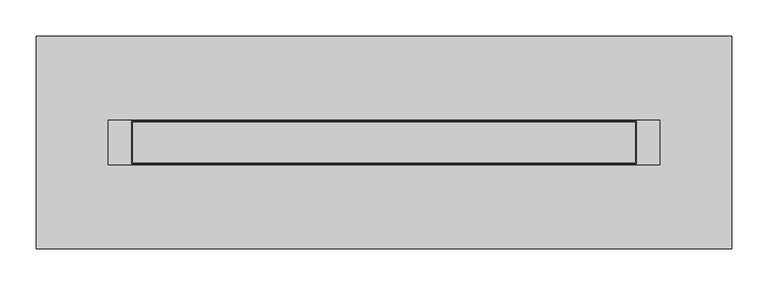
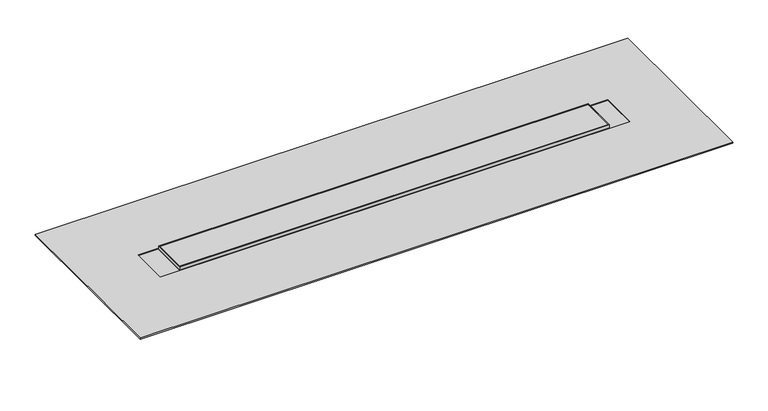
"""IFC4 building model written with IfcOpenShell, lengths in millimetres: sanitary terminal geometry, NLRS_PF_52_UN_Compact Modulo Stone_Easydrain : Compact Modulo Stone."""

from ifc_helpers import new_model, si_unit, frame, origin, place, context, project, spatial, polyline, circle_curve, ellipse_curve, outline, extrude, source, transform, mapped, element, save
from ifc_brep_helpers import plane_surface, cylinder_surface, advanced_brep


def sanitary_terminal_7838ee8a(model_context):
    return source(origin(), model_context, "Body", "SolidModel", [
        extrude(outline(polyline([(500.0, 29.5), (500.0, -29.5), (-200.0, -29.5), (-200.0, 29.5), (500.0, 29.5)])), frame((0.0, 0.0, -9.0), z_axis=(0.0, 0.0, 1.0), x_axis=(1.0, 0.0, 0.0)), (0.0, 0.0, 1.0), 3.0),
        extrude(outline(polyline([(498.5, 28.0), (498.5, -28.0), (-198.5, -28.0), (-198.5, 28.0), (498.5, 28.0)])), frame((0.0, 0.0, -6.0), z_axis=(0.0, 0.0, 1.0), x_axis=(1.0, 0.0, 0.0)), (0.0, 0.0, 1.0), 6.0),
        extrude(outline(polyline([(500.0, 29.5), (500.0, -29.5), (-200.0, -29.5), (-200.0, 29.5), (500.0, 29.5)]), holes=[polyline([(498.5, 28.0), (-198.5, 28.0), (-198.5, -28.0), (498.5, -28.0), (498.5, 28.0)])]), frame((0.0, 0.0, -6.0), z_axis=(0.0, 0.0, 1.0), x_axis=(1.0, 0.0, 0.0)), (0.0, 0.0, 1.0), 6.0),
        extrude(outline(polyline([(632.5, 147.5), (632.5, -147.5), (-332.5, -147.5), (-332.5, 147.5), (632.5, 147.5)]), holes=[polyline([(532.5, 31.0), (-232.5, 31.0), (-232.5, -31.0), (532.5, -31.0), (532.5, 31.0)])]), frame((0.0, 0.0, -7.0), z_axis=(0.0, 0.0, 1.0), x_axis=(1.0, 0.0, 0.0)), (0.0, 0.0, 1.0), 2.0),
        advanced_brep(
        [(-232.5, -31.0, -24.0), (40.0, -31.0, -26.0), (40.0, -31.0, -69.0), (260.0, -31.0, -69.0), (260.0, -31.0, -26.0), (532.5, -31.0, -24.0), (532.5, -31.0, -8.0), (-232.5, -31.0, -8.0), (150.0, -31.0, -24.0), (150.0, -31.0, -64.0), (532.5, 31.0, -24.0), (260.0, 31.0, -26.0), (260.0, 31.0, -69.0), (40.0, 31.0, -69.0), (40.0, 31.0, -26.0), (-232.5, 31.0, -24.0), (-232.5, 31.0, -8.0), (532.5, 31.0, -8.0), (-212.5, 0.0, -24.146789), (-172.5, 0.0, -24.440367), (532.5, 30.0, -8.0), (532.5, -30.0, -8.0), (550.0, 47.5, -6.0), (-250.0, 47.5, -6.0), (-250.0, -64.5, -6.0), (550.0, -64.5, -6.0), (-232.5, -30.0, -8.0), (-232.5, 30.0, -8.0), (472.5, 0.0, -24.440367), (512.5, 0.0, -24.146789), (150.0, -50.0, -24.0), (150.0, -50.0, -64.0), (550.0, 47.5, -8.0), (550.0, -64.5, -8.0), (-250.0, -64.5, -8.0), (-250.0, 47.5, -8.0), (-212.5, 0.0, -69.0), (-172.5, 0.0, -69.0), (472.5, 0.0, -69.0), (512.5, 0.0, -69.0)],
        [
            (0, 1),
            (1, 2),
            (2, 3),
            (3, 4),
            (4, 5),
            (5, 6),
            (6, 7),
            (7, 0),
            (8, 9, circle_curve(frame((150.0, -31.0, -44.0), z_axis=(0.0, 1.0, 0.0), x_axis=(0.0, 0.0, -1.0)), 20.0)),
            (9, 8, circle_curve(frame((150.0, -31.0, -44.0), z_axis=(0.0, 1.0, 0.0), x_axis=(0.0, 0.0, -1.0)), 20.0)),
            (10, 11),
            (11, 12),
            (12, 13),
            (13, 14),
            (14, 15),
            (15, 16),
            (16, 17),
            (17, 10),
            (0, 15),
            (14, 1),
            (18, 19, ellipse_curve(frame((-192.5, 0.0, -24.293578), z_axis=(0.007339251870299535, 0.0, 0.9999730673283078), x_axis=(-0.9999730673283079, 0.0, 0.007339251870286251)), 20.0005387, 20.0)),
            (19, 18, ellipse_curve(frame((-192.5, 0.0, -24.293578), z_axis=(0.007339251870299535, 0.0, 0.9999730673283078), x_axis=(-0.9999730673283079, 0.0, 0.007339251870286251)), 20.0005387, 20.0)),
            (5, 10),
            (17, 20),
            (20, 21),
            (21, 6),
            (22, 23),
            (23, 24),
            (24, 25),
            (25, 22),
            (7, 26),
            (26, 27),
            (27, 16),
            (13, 2),
            (12, 3),
            (11, 4),
            (28, 29, ellipse_curve(frame((492.5, 0.0, -24.293578), z_axis=(-0.00733925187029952, 0.0, 0.9999730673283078), x_axis=(0.9999730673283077, 0.0, 0.007339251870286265)), 20.0005387, 20.0)),
            (29, 28, ellipse_curve(frame((492.5, 0.0, -24.293578), z_axis=(-0.00733925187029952, 0.0, 0.9999730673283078), x_axis=(0.9999730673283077, 0.0, 0.007339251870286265)), 20.0005387, 20.0)),
            (30, 31, circle_curve(frame((150.0, -50.0, -44.0), z_axis=(0.0, -1.0, 0.0), x_axis=(0.0, 0.0, -1.0)), 20.0)),
            (31, 30, circle_curve(frame((150.0, -50.0, -44.0), z_axis=(0.0, -1.0, 0.0), x_axis=(0.0, 0.0, -1.0)), 20.0)),
            (31, 9),
            (8, 30),
            (32, 33),
            (33, 34),
            (34, 35),
            (35, 32),
            (22, 32),
            (35, 23),
            (34, 24),
            (33, 25),
            (36, 37, circle_curve(frame((-192.5, 0.0, -69.0), z_axis=(0.0, 0.0, -1.0), x_axis=(1.0, 0.0, 0.0)), 20.0)),
            (37, 36, circle_curve(frame((-192.5, 0.0, -69.0), z_axis=(0.0, 0.0, -1.0), x_axis=(1.0, 0.0, 0.0)), 20.0)),
            (38, 39, circle_curve(frame((492.5, 0.0, -69.0), z_axis=(0.0, 0.0, -1.0), x_axis=(1.0, 0.0, 0.0)), 20.0)),
            (39, 38, circle_curve(frame((492.5, 0.0, -69.0), z_axis=(0.0, 0.0, -1.0), x_axis=(1.0, 0.0, 0.0)), 20.0)),
            (37, 19),
            (18, 36),
            (39, 29),
            (28, 38),
        ],
        [
            plane_surface(frame((-232.5, -31.0, -24.0), z_axis=(0.0, -1.0, 0.0), x_axis=(0.9999730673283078, 0.0, -0.007339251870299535))),
            plane_surface(frame((-232.5, 31.0, -24.0), z_axis=(0.0, 1.0, 0.0), x_axis=(-0.9999730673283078, 0.0, 0.007339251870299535))),
            plane_surface(frame((-232.5, -31.0, -24.0), z_axis=(-0.007339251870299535, 0.0, -0.9999730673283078), x_axis=(0.0, 1.0, 0.0))),
            plane_surface(frame((532.5, -31.0, -24.0), z_axis=(1.0, 0.0, 0.0), x_axis=(0.0, 1.0, 0.0))),
            plane_surface(frame((532.5, -31.0, -6.0), z_axis=(0.0, 0.0, 1.0), x_axis=(0.0, 1.0, 0.0))),
            plane_surface(frame((-232.5, -31.0, -6.0), z_axis=(-1.0, 0.0, 0.0), x_axis=(0.0, 1.0, 0.0))),
            plane_surface(frame((40.0, -31.0, -26.0), z_axis=(-1.0, 0.0, 0.0), x_axis=(0.0, 1.0, 0.0))),
            plane_surface(frame((40.0, -31.0, -69.0), z_axis=(0.0, 0.0, -1.0), x_axis=(0.0, 1.0, 0.0))),
            plane_surface(frame((260.0, -31.0, -69.0), z_axis=(1.0, 0.0, 0.0), x_axis=(0.0, 1.0, 0.0))),
            plane_surface(frame((260.0, -31.0, -26.0), z_axis=(0.00733925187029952, 0.0, -0.9999730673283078), x_axis=(0.0, 1.0, 0.0))),
            plane_surface(frame((150.0, -50.0, -44.0), z_axis=(0.0, -1.0, 0.0), x_axis=(1.0, 0.0, 0.0))),
            cylinder_surface(frame((150.0, 0.0, -44.0), z_axis=(0.0, 1.0, 0.0), x_axis=(0.0, 0.0, -1.0)), 20.0),
            plane_surface(frame((532.5, 30.0, -8.0), z_axis=(0.0, 0.0, -1.0), x_axis=(0.0, 1.0, 0.0))),
            plane_surface(frame((550.0, 47.5, -6.0), z_axis=(0.0, 1.0, 0.0), x_axis=(0.0, 0.0, -1.0))),
            plane_surface(frame((-250.0, 47.5, -6.0), z_axis=(-1.0, 0.0, 0.0), x_axis=(0.0, 0.0, -1.0))),
            plane_surface(frame((-250.0, -64.5, -6.0), z_axis=(0.0, -1.0, 0.0), x_axis=(0.0, 0.0, -1.0))),
            plane_surface(frame((550.0, -64.5, -6.0), z_axis=(1.0, 0.0, 0.0), x_axis=(0.0, 0.0, -1.0))),
            plane_surface(frame((-172.5, 0.0, -69.0), z_axis=(0.0, 0.0, -1.0), x_axis=(0.0, -1.0, 0.0))),
            cylinder_surface(frame((-192.5, 0.0, -69.0), z_axis=(0.0, 0.0, 1.0), x_axis=(1.0, 0.0, 0.0)), 20.0),
            cylinder_surface(frame((492.5, 0.0, 0.0), z_axis=(0.0, 0.0, 1.0), x_axis=(1.0, 0.0, 0.0)), 20.0),
        ],
        [
            (0, [[1, 2, 3, 4, 5, 6, 7, 8], [9, 10]]),
            (1, [[11, 12, 13, 14, 15, 16, 17, 18]]),
            (2, [[-1, 19, -15, 20], [21, 22]]),
            (3, [[23, -18, 24, 25, 26, -6]]),
            (4, [[27, 28, 29, 30]]),
            (5, [[-19, -8, 31, 32, 33, -16]]),
            (6, [[-2, -20, -14, 34]]),
            (7, [[-3, -34, -13, 35]]),
            (8, [[-4, -35, -12, 36]]),
            (9, [[-5, -36, -11, -23], [37, 38]]),
            (10, [[39, 40]]),
            (11, [[-40, 41, -9, 42]]),
            (11, [[-39, -42, -10, -41]]),
            (12, [[43, 44, 45, 46], [-7, -26, -25, -24, -17, -33, -32, -31]]),
            (13, [[-27, 47, -46, 48]]),
            (14, [[-28, -48, -45, 49]]),
            (15, [[-29, -49, -44, 50]]),
            (16, [[-30, -50, -43, -47]]),
            (17, [[51, 52]]),
            (17, [[53, 54]]),
            (18, [[-52, 55, -21, 56]]),
            (18, [[-51, -56, -22, -55]]),
            (19, [[-54, 57, -37, 58]]),
            (19, [[-53, -58, -38, -57]]),
        ],
    ),
    ])


if __name__ == "__main__":
    model = new_model("IFC4")
    model_context = context("Model", 3, world=origin())
    ifc_project = project(units=[si_unit("LENGTHUNIT", "METRE", prefix="MILLI")], contexts=[model_context])
    site = spatial("IfcSite", under=ifc_project)
    building = spatial("IfcBuilding", under=site)
    placement = place(None, origin())
    sanitary_terminal_shape = sanitary_terminal_7838ee8a(model_context)
    element("IfcSanitaryTerminal", 1, ObjectType="NLRS_PF_52_UN_Compact Modulo Stone_Easydrain : Compact Modulo Stone", at=placement, inside=building, context=model_context, shape_type="MappedRepresentation", body=[
        mapped(sanitary_terminal_shape, transform((0.0, 0.0, 0.0), x_axis=(1.0, 0.0, 0.0), y_axis=(0.0, 1.0, 0.0), z_axis=(0.0, 0.0, 1.0))),
    ])
    save(model, "model.ifc")
